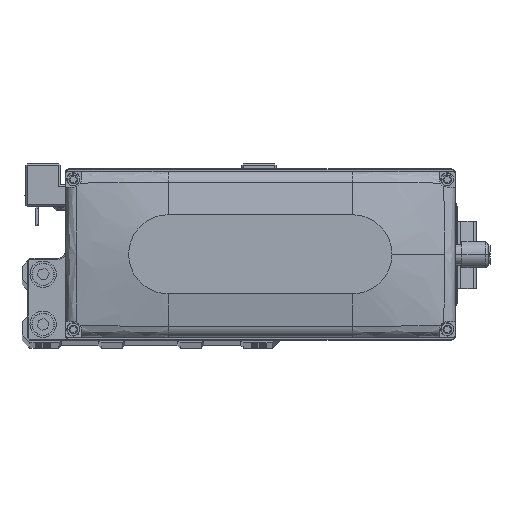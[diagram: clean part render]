
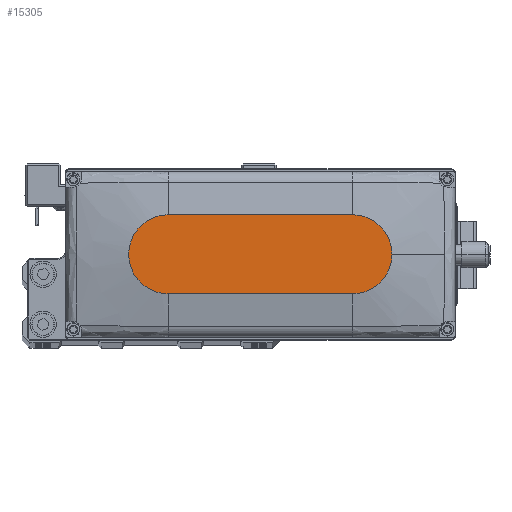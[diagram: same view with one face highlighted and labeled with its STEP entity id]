
A CAD part, top view. The second image highlights one B-rep face of the part: STEP entity #15305.
In plain terms, the highlighted planar face has unit normal (0, 0, 1).
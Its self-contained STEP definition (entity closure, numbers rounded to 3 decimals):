
#320 = CARTESIAN_POINT ( 'NONE',  ( -35., 15., 35. ) ) ;
#1917 = EDGE_CURVE ( 'NONE', #18183, #6192, #21537, .T. ) ;
#2007 = AXIS2_PLACEMENT_3D ( 'NONE', #24851, #38659, #7663 ) ;
#2170 = CARTESIAN_POINT ( 'NONE',  ( 0., 0., 35. ) ) ;
#2945 = DIRECTION ( 'NONE',  ( 0., 0., 1. ) ) ;
#3309 = EDGE_LOOP ( 'NONE', ( #4164, #28767, #31127, #41761, #28363 ) ) ;
#3888 = VERTEX_POINT ( 'NONE', #320 ) ;
#4164 = ORIENTED_EDGE ( 'NONE', *, *, #35784, .T. ) ;
#5455 = VECTOR ( 'NONE', #39078, 1000. ) ;
#5663 = CARTESIAN_POINT ( 'NONE',  ( -35., -15., 35. ) ) ;
#6192 = VERTEX_POINT ( 'NONE', #22850 ) ;
#6195 = EDGE_CURVE ( 'NONE', #10758, #18183, #36650, .T. ) ;
#7663 = DIRECTION ( 'NONE',  ( 1., 0., 0. ) ) ;
#9733 = CARTESIAN_POINT ( 'NONE',  ( 35., -15., 35. ) ) ;
#10234 = DIRECTION ( 'NONE',  ( 1., 0., 0. ) ) ;
#10758 = VERTEX_POINT ( 'NONE', #17860 ) ;
#11473 = LINE ( 'NONE', #25268, #5455 ) ;
#11569 = CIRCLE ( 'NONE', #36855, 15. ) ;
#12538 = CARTESIAN_POINT ( 'NONE',  ( 35., 15., 35. ) ) ;
#13441 = VECTOR ( 'NONE', #19460, 1000. ) ;
#15305 = ADVANCED_FACE ( 'NONE', ( #19372 ), #33150, .T. ) ;
#15980 = DIRECTION ( 'NONE',  ( 0., 0., 1. ) ) ;
#16615 = CIRCLE ( 'NONE', #41904, 15. ) ;
#16755 = DIRECTION ( 'NONE',  ( 1., 0., 0. ) ) ;
#17860 = CARTESIAN_POINT ( 'NONE',  ( -35., -15., 35. ) ) ;
#18183 = VERTEX_POINT ( 'NONE', #9733 ) ;
#19372 = FACE_OUTER_BOUND ( 'NONE', #3309, .T. ) ;
#19460 = DIRECTION ( 'NONE',  ( 1., 0., 0. ) ) ;
#21537 = CIRCLE ( 'NONE', #2007, 15. ) ;
#22850 = CARTESIAN_POINT ( 'NONE',  ( 50., 0., 35. ) ) ;
#24741 = AXIS2_PLACEMENT_3D ( 'NONE', #2170, #15980, #29757 ) ;
#24851 = CARTESIAN_POINT ( 'NONE',  ( 35., 0., 35. ) ) ;
#25268 = CARTESIAN_POINT ( 'NONE',  ( -35., 15., 35. ) ) ;
#26915 = EDGE_CURVE ( 'NONE', #3888, #10758, #11569, .T. ) ;
#27422 = CARTESIAN_POINT ( 'NONE',  ( -35., 0., 35. ) ) ;
#28363 = ORIENTED_EDGE ( 'NONE', *, *, #31872, .T. ) ;
#28767 = ORIENTED_EDGE ( 'NONE', *, *, #26915, .T. ) ;
#29757 = DIRECTION ( 'NONE',  ( 1., 0., 0. ) ) ;
#31127 = ORIENTED_EDGE ( 'NONE', *, *, #6195, .T. ) ;
#31872 = EDGE_CURVE ( 'NONE', #6192, #41801, #16615, .T. ) ;
#33150 = PLANE ( 'NONE',  #24741 ) ;
#33931 = CARTESIAN_POINT ( 'NONE',  ( 35., 0., 35. ) ) ;
#35784 = EDGE_CURVE ( 'NONE', #41801, #3888, #11473, .T. ) ;
#36650 = LINE ( 'NONE', #5663, #13441 ) ;
#36855 = AXIS2_PLACEMENT_3D ( 'NONE', #27422, #41230, #10234 ) ;
#38659 = DIRECTION ( 'NONE',  ( 0., 0., 1. ) ) ;
#39078 = DIRECTION ( 'NONE',  ( -1., 0., 0. ) ) ;
#41230 = DIRECTION ( 'NONE',  ( 0., 0., 1. ) ) ;
#41761 = ORIENTED_EDGE ( 'NONE', *, *, #1917, .T. ) ;
#41801 = VERTEX_POINT ( 'NONE', #12538 ) ;
#41904 = AXIS2_PLACEMENT_3D ( 'NONE', #33931, #2945, #16755 ) ;
